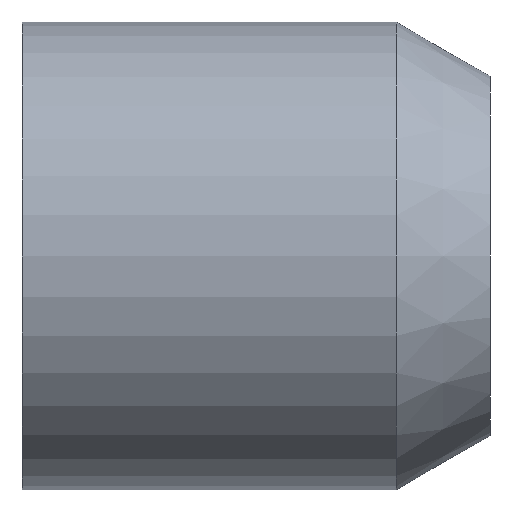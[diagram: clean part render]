
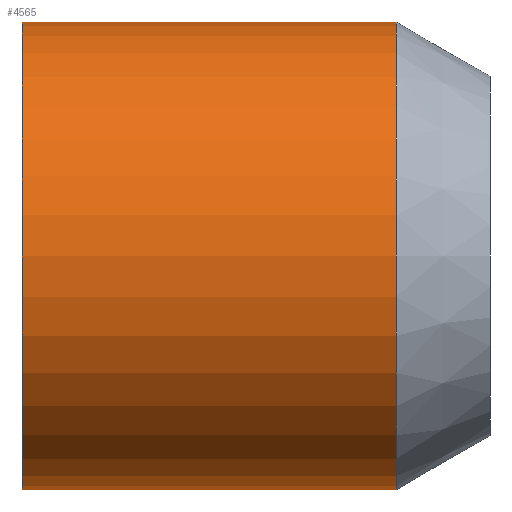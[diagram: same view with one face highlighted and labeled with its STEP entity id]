
A CAD part, left-side view. The second image highlights one B-rep face of the part: STEP entity #4565.
In plain terms, the highlighted cylindrical face has radius 5 mm (diameter 10 mm), a full revolution.
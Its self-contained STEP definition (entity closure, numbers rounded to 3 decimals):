
#22 = AXIS2_PLACEMENT_3D ( 'NONE', #830, #1203, #3796 ) ;
#175 = DIRECTION ( 'NONE',  ( -1., 0., 0. ) ) ;
#464 = AXIS2_PLACEMENT_3D ( 'NONE', #3115, #2781, #175 ) ;
#830 = CARTESIAN_POINT ( 'NONE',  ( 0., 0., 0. ) ) ;
#1089 = VERTEX_POINT ( 'NONE', #3839 ) ;
#1203 = DIRECTION ( 'NONE',  ( 0., -1., 0. ) ) ;
#1261 = EDGE_LOOP ( 'NONE', ( #2116 ) ) ;
#1309 = DIRECTION ( 'NONE',  ( 0., -1., 0. ) ) ;
#1381 = FACE_OUTER_BOUND ( 'NONE', #1261, .T. ) ;
#1502 = CIRCLE ( 'NONE', #2691, 5. ) ;
#1619 = FACE_OUTER_BOUND ( 'NONE', #3752, .T. ) ;
#2064 = CARTESIAN_POINT ( 'NONE',  ( 0., 10., 0. ) ) ;
#2116 = ORIENTED_EDGE ( 'NONE', *, *, #2256, .T. ) ;
#2256 = EDGE_CURVE ( 'NONE', #1089, #1089, #2996, .T. ) ;
#2691 = AXIS2_PLACEMENT_3D ( 'NONE', #2064, #1309, #4234 ) ;
#2698 = EDGE_CURVE ( 'NONE', #2944, #2944, #1502, .T. ) ;
#2781 = DIRECTION ( 'NONE',  ( 0., 1., 0. ) ) ;
#2944 = VERTEX_POINT ( 'NONE', #4196 ) ;
#2996 = CIRCLE ( 'NONE', #464, 5. ) ;
#3115 = CARTESIAN_POINT ( 'NONE',  ( 0., 2., 0. ) ) ;
#3568 = ORIENTED_EDGE ( 'NONE', *, *, #2698, .T. ) ;
#3752 = EDGE_LOOP ( 'NONE', ( #3568 ) ) ;
#3796 = DIRECTION ( 'NONE',  ( 1., 0., 0. ) ) ;
#3839 = CARTESIAN_POINT ( 'NONE',  ( -5., 2., 0. ) ) ;
#4196 = CARTESIAN_POINT ( 'NONE',  ( 5., 10., 0. ) ) ;
#4234 = DIRECTION ( 'NONE',  ( 1., 0., 0. ) ) ;
#4559 = CYLINDRICAL_SURFACE ( 'NONE', #22, 5. ) ;
#4565 = ADVANCED_FACE ( 'NONE', ( #1381, #1619 ), #4559, .T. ) ;
